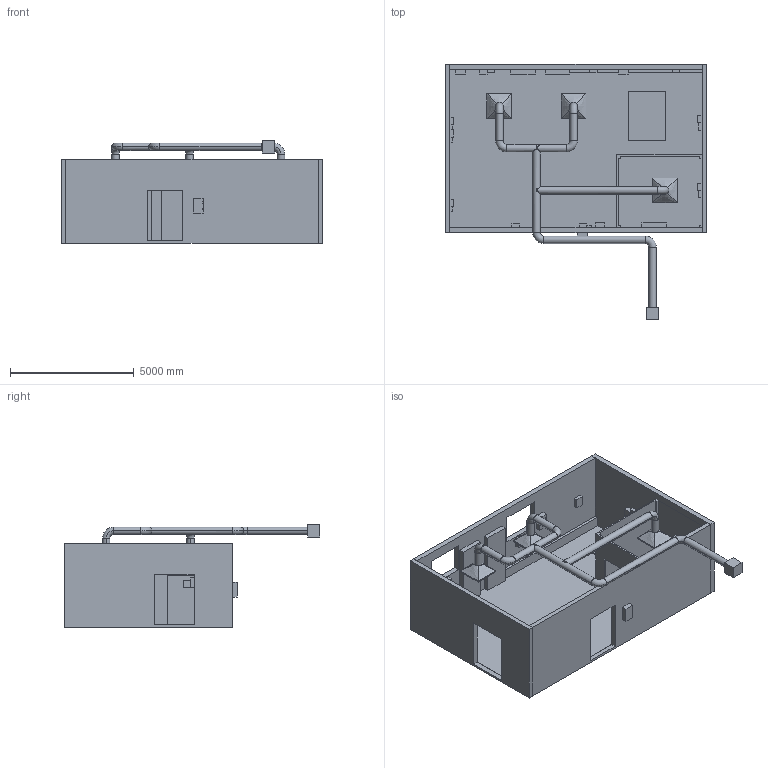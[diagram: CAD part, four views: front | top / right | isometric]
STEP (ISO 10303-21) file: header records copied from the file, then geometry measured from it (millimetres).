
FILE_DESCRIPTION(('CATIA V5 STEP Exchange'),'2;1');
FILE_NAME('E:\OneDrive\1_WORK\PROJET\RENOVATION_SALLES_020_010\0_CAO_Salles_Expes\Salle020_CASTEX\26_11_Salle020_Projet2\Salle_020_Projet.stp','2026-02-11T13:36:30+00:00',('none'),('none'),'CATIA Version 5 Release 21 GA (IN-10)','CATIA V5 STEP AP203','none');
FILE_SCHEMA(('CONFIG_CONTROL_DESIGN'));
Length unit declared in the file: millimetre
Products named in the file (3): Salle_020_CASTEX; Ventillation Projet; Equipement_Electrique_Projet
Assembly tree (35 placements, depth 3):
  Salle_020_CASTEX
    #58
    #1641  x3
    #1846
    Ventillation Projet
      #2531  x3
      #4971
      #7539  x3
    Equipement_Electrique_Projet
      #7931  x4
      #8420  x4
      #8595  x10
      #8905  x3
Bounding box: 10600 x 10347.67 x 4155 mm (x, y, z)
Volume: 32039979662.3 mm3; surface area: 529470823.6 mm2
Topology: 37 solids, 37 shells, 463 faces, 1009 edges, 626 vertices
Faces by surface type: plane 323, cylinder 88, torus 28, bspline 24
Entity records: 9087 total; most frequent: CARTESIAN_POINT 3650, ORIENTED_EDGE 1074, DIRECTION 953, EDGE_CURVE 537, VECTOR 379, LINE 379, AXIS2_PLACEMENT_3D 340, VERTEX_POINT 330
